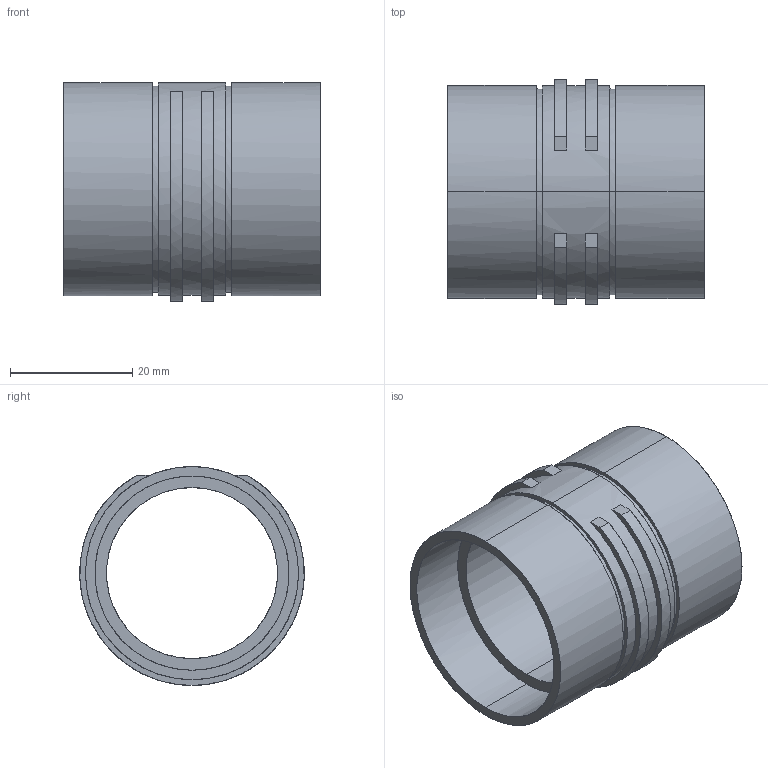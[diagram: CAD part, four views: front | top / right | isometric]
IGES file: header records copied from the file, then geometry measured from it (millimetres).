
Start section: Comment
Global section: file name: 70-31.8U-BH.igs; native system:  By Spatial Corp.; preprocessor: XPlus GENERIC/IGES 3.0; author: Author; organization: Title; date: 20100222.110610; units: inch
Bounding box: 42 x 36.8 x 35.85 mm (x, y, z)
Surface area: 9841.8 mm2 (no closed solid volume)
Topology: 0 solids, 0 shells, 34 faces, 164 edges, 164 vertices
Faces by surface type: bspline 34
